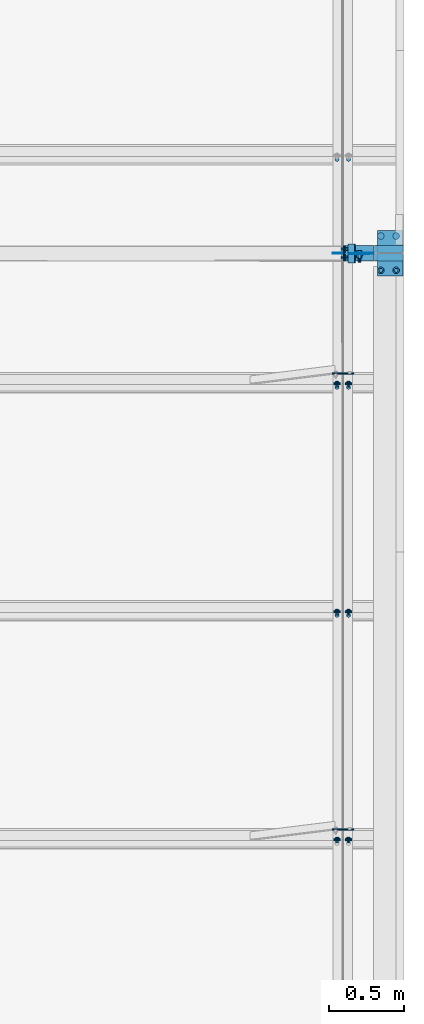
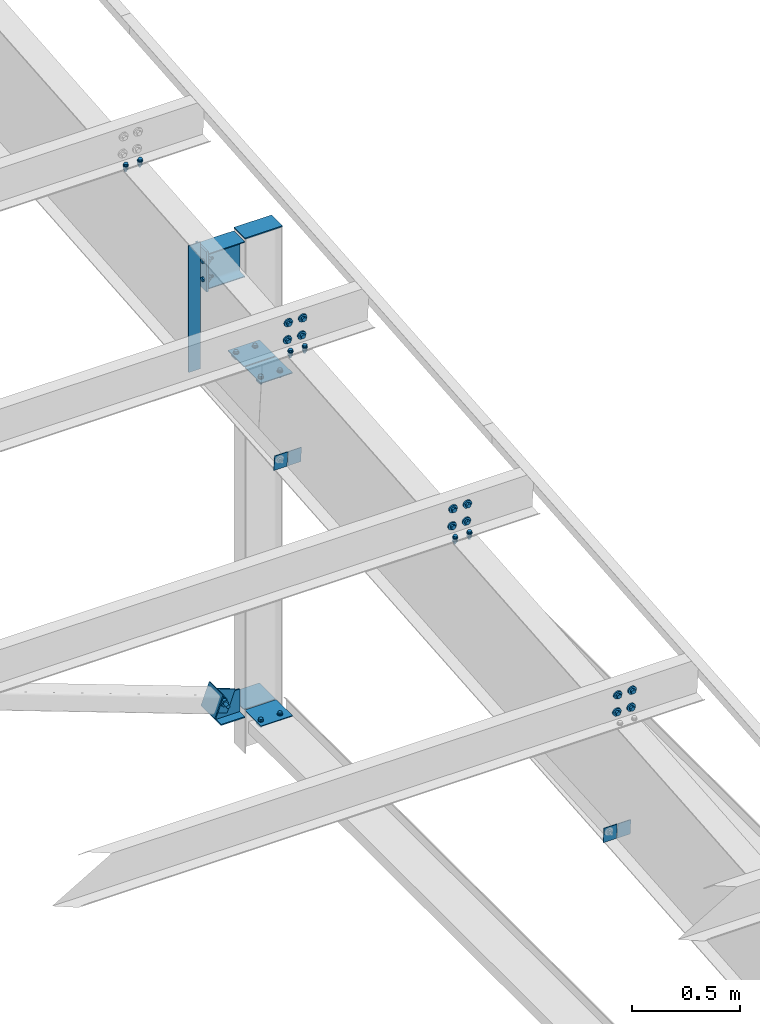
# One storey, part 108 of 185: 16 discrete accessories, 14 mechanical fasteners, 8 elements without a shape of their own.
"""IFC2X3 building model written with IfcOpenShell, lengths in millimetres."""

from ifc_helpers import new_model, si_unit, frame, frame_2d, origin_with_axes, origin_2d_with_axis, place, context, subcontext, project, spatial, polyline, circle_curve, parameter, trimmed, segment, composite_curve, rectangle, circle, i_section, outline, extrude, source, transform, mapped, material, type_object, element, aggregate, save


model = new_model("IFC2X3")

# Units and contexts
model_context = context("Model", 3, precision=1e-05, world=origin_with_axes())
body_context = subcontext(model_context, "Body", "Model", "MODEL_VIEW")
ifc_project = project(units=[si_unit("LENGTHUNIT", "METRE", prefix="MILLI"), si_unit("AREAUNIT", "SQUARE_METRE"), si_unit("VOLUMEUNIT", "CUBIC_METRE"), si_unit("MASSUNIT", "GRAM", prefix="KILO"), si_unit("TIMEUNIT", "SECOND"), si_unit("PLANEANGLEUNIT", "RADIAN"), si_unit("SOLIDANGLEUNIT", "STERADIAN"), si_unit("THERMODYNAMICTEMPERATUREUNIT", "DEGREE_CELSIUS"), si_unit("LUMINOUSINTENSITYUNIT", "LUMEN")], contexts=[model_context])

# Site, building, storey
site_placement = place(None, origin_with_axes())
site = spatial("IfcSite", under=ifc_project, at=site_placement, Name="Undefined", CompositionType="ELEMENT")
building_placement = place(site_placement, origin_with_axes())
building = spatial("IfcBuilding", under=site, at=building_placement, Name="Undefined", CompositionType="ELEMENT")
storey_placement = place(building_placement, origin_with_axes())
storey = spatial("IfcBuildingStorey", under=building, at=storey_placement, Name="Undefined", CompositionType="ELEMENT", Elevation=0.0)

# Assembly, discrete accessories
assembly_1_placement = place(storey_placement, origin_with_axes())
assembly_1 = element("IfcElementAssembly", 1, at=assembly_1_placement, inside=storey, Name="Steel Assembly", AssemblyPlace="NOTDEFINED", PredefinedType="RIGID_FRAME")
ifc_material_1 = material(Name="STEEL/55")
discrete_accessory_type_1 = type_object("IfcDiscreteAccessoryType", Name="XP-38")
discrete_accessory_1_placement = place(assembly_1_placement, frame((44868.703125, 12011.102788, 4167.98125), z_axis=(-1.0, 0.0, 0.0), x_axis=(0.0, -1.0, 0.0)))
discrete_accessory_1 = element("IfcDiscreteAccessory", 2, at=discrete_accessory_1_placement, type_object=discrete_accessory_type_1, material=ifc_material_1, Name="XP-38", ObjectType="PL3/16\"X5 7/8\"", context=body_context, shape_type="SweptSolid", body=[
    extrude(rectangle(XDim=4.7625, YDim=168.275, at=origin_2d_with_axis()), frame((149.224999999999, 0.0, 0.0), z_axis=(-1.0, 0.0, 0.0), x_axis=(0.0, -1.0, 0.0)), (0.0, 0.0, 1.0), 149.2),
])
discrete_accessory_2_placement = place(assembly_1_placement, frame((44868.703125, 12017.297212, 4167.98125), z_axis=(-1.0, 0.0, 0.0), x_axis=(0.0, 1.0, 0.0)))
discrete_accessory_2 = element("IfcDiscreteAccessory", 3, at=discrete_accessory_2_placement, type_object=discrete_accessory_type_1, material=ifc_material_1, Name="XP-38", ObjectType="PL3/16\"X5 7/8\"", context=body_context, shape_type="SweptSolid", body=[
    extrude(rectangle(XDim=4.7625, YDim=168.275, at=origin_2d_with_axis()), frame((149.224999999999, 0.0, 0.0), z_axis=(-1.0, 0.0, 0.0), x_axis=(0.0, -1.0, 0.0)), (0.0, 0.0, 1.0), 149.2),
])
discrete_accessory_3_placement = place(assembly_1_placement, frame((44868.703125, 12011.102788, 6098.38125), z_axis=(-1.0, 0.0, 0.0), x_axis=(0.0, -1.0, 0.0)))
discrete_accessory_3 = element("IfcDiscreteAccessory", 4, at=discrete_accessory_3_placement, type_object=discrete_accessory_type_1, material=ifc_material_1, Name="XP-38", ObjectType="PL3/16\"X5 7/8\"", context=body_context, shape_type="SweptSolid", body=[
    extrude(rectangle(XDim=4.7625, YDim=168.275, at=origin_2d_with_axis()), frame((149.224999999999, 0.0, 0.0), z_axis=(-1.0, 0.0, 0.0), x_axis=(0.0, -1.0, 0.0)), (0.0, 0.0, 1.0), 149.2),
])
discrete_accessory_4_placement = place(assembly_1_placement, frame((44868.703125, 12017.297212, 6098.38125), z_axis=(-1.0, 0.0, 0.0), x_axis=(0.0, 1.0, 0.0)))
discrete_accessory_4 = element("IfcDiscreteAccessory", 5, at=discrete_accessory_4_placement, type_object=discrete_accessory_type_1, material=ifc_material_1, Name="XP-38", ObjectType="PL3/16\"X5 7/8\"", context=body_context, shape_type="SweptSolid", body=[
    extrude(rectangle(XDim=4.7625, YDim=168.275, at=origin_2d_with_axis()), frame((149.224999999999, 0.0, 0.0), z_axis=(-1.0, 0.0, 0.0), x_axis=(0.0, -1.0, 0.0)), (0.0, 0.0, 1.0), 149.2),
])

# Assembly, discrete accessory
assembly_2_placement = place(storey_placement, origin_with_axes())
assembly_2 = element("IfcElementAssembly", 6, at=assembly_2_placement, inside=storey, Name="Steel Assembly", AssemblyPlace="NOTDEFINED", PredefinedType="RIGID_FRAME")
discrete_accessory_type_2 = type_object("IfcDiscreteAccessoryType", Name="Stiff")
discrete_accessory_5_placement = place(assembly_2_placement, frame((44517.546538, 12013.6952801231, 6886.40888705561), z_axis=(-1.0, 0.0, 0.0), x_axis=(0.0, 0.0, -1.0)))
discrete_accessory_5 = element("IfcDiscreteAccessory", 7, at=discrete_accessory_5_placement, type_object=discrete_accessory_type_2, material=ifc_material_1, Name="Stiff", ObjectType="FL1/4\"X2 1/2\"", context=body_context, shape_type="SweptSolid", body=[
    extrude(rectangle(XDim=6.35, YDim=63.5, at=origin_2d_with_axis()), frame((712.793737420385, 0.0, 0.0), z_axis=(-1.0, 0.0, 0.0), x_axis=(0.0, -1.0, 0.0)), (0.0, 0.0, 1.0), 712.8),
])

# Discrete accessory
discrete_accessory_6_placement = place(assembly_1_placement, frame((44694.475, 12065.0, 4167.98125), z_axis=(-1.0, 0.0, 0.0), x_axis=(0.0, -1.0, 0.0)))
discrete_accessory_6 = element("IfcDiscreteAccessory", 8, at=discrete_accessory_6_placement, type_object=discrete_accessory_type_2, material=ifc_material_1, Name="Stiff", ObjectType="FL1/4\"X4\"", context=body_context, shape_type="SweptSolid", body=[
    extrude(rectangle(XDim=6.35, YDim=127.0, at=origin_2d_with_axis()), frame((101.599998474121, 0.0, 0.0), z_axis=(-1.0, 0.0, 0.0), x_axis=(0.0, -1.0, 0.0)), (0.0, 0.0, 1.0), 101.6),
])

# Assembly, mechanical fasteners
assembly_3_placement = place(storey_placement, origin_with_axes())
assembly_3 = element("IfcElementAssembly", 9, at=assembly_3_placement, inside=storey, Name="Steel Assembly", AssemblyPlace="NOTDEFINED", PredefinedType="RIGID_FRAME")
ifc_material_2 = material(Name="Undefined")
discrete_accessory_type_3 = type_object("IfcDiscreteAccessoryType", Name="Bolt assembly")
shared_shape_1 = source(origin_with_axes(), body_context, "Body", "SweptSolid", [
    extrude(circle(Radius=7.14374971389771, at=origin_2d_with_axis()), frame((0.0, -1.59000001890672, 0.0), z_axis=(0.0, 1.0, 0.0), x_axis=(1.0, 0.0, 0.0)), (0.0, 0.0, 1.0), 3.3),
    extrude(circle(Radius=13.4937496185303, at=origin_2d_with_axis()), frame((0.0, -5.5587500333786, 0.0), z_axis=(0.0, 1.0, 0.0), x_axis=(1.0, 0.0, 0.0)), (0.0, 0.0, 1.0), 4.0),
    extrude(circle(Radius=22.2250003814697, at=origin_2d_with_axis()), frame((0.0, 1.5900000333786, 0.0), z_axis=(0.0, 1.0, 0.0), x_axis=(1.0, 0.0, 0.0)), (0.0, 0.0, 1.0), 7.9),
    extrude(outline(polyline([(12.8316099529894, 0.0), (6.4158049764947, 11.1125001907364), (-6.4158049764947, 11.1125001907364), (-12.8316099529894, 0.0), (-6.4158049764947, -11.1125001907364), (6.4158049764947, -11.1125001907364), (12.8316099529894, 0.0)])), frame((0.0, 9.5275000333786, 0.0), z_axis=(0.0, 1.0, 0.0), x_axis=(1.0, 0.0, 0.0)), (0.0, 0.0, 1.0), 12.3),
])
mechanical_fastener_1_placement = place(assembly_3_placement, frame((44513.5, 8108.79330990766, 6720.75669348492), z_axis=(-1.0, 0.0, 0.0), x_axis=(0.0, 0.0830454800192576, -0.996545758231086)))
mechanical_fastener_1 = element("IfcMechanicalFastener", 10, at=mechanical_fastener_1_placement, type_object=discrete_accessory_type_3, material=ifc_material_2, Name="Bolt assembly", NominalDiameter=12.6999998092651, NominalLength=38.0999984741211, context=body_context, shape_type="MappedRepresentation", body=[
    mapped(shared_shape_1, transform((0.0, 0.0, 0.0))),
    mapped(shared_shape_1, transform((101.599998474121, 0.0, 0.0))),
])
mechanical_fastener_2_placement = place(assembly_3_placement, frame((44589.7, 8108.79330990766, 6720.75669348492), z_axis=(-1.0, 0.0, 0.0), x_axis=(0.0, 0.0830454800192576, -0.996545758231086)))
mechanical_fastener_2 = element("IfcMechanicalFastener", 11, at=mechanical_fastener_2_placement, type_object=discrete_accessory_type_3, material=ifc_material_2, Name="Bolt assembly", NominalDiameter=12.6999998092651, NominalLength=38.0999984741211, context=body_context, shape_type="MappedRepresentation", body=[
    mapped(shared_shape_1, transform((0.0, 0.0, 0.0))),
    mapped(shared_shape_1, transform((101.599998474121, 0.0, 0.0))),
])
aggregate(assembly_3, [mechanical_fastener_1, mechanical_fastener_2])

assembly_4_placement = place(storey_placement, origin_with_axes())
assembly_4 = element("IfcElementAssembly", 12, at=assembly_4_placement, inside=storey, Name="Steel Assembly", AssemblyPlace="NOTDEFINED", PredefinedType="RIGID_FRAME")
mechanical_fastener_3_placement = place(assembly_4_placement, frame((44513.5, 9627.52904545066, 6847.31800503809), z_axis=(-1.0, 0.0, 0.0), x_axis=(0.0, 0.0830454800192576, -0.996545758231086)))
mechanical_fastener_3 = element("IfcMechanicalFastener", 13, at=mechanical_fastener_3_placement, type_object=discrete_accessory_type_3, material=ifc_material_2, Name="Bolt assembly", NominalDiameter=12.6999998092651, NominalLength=38.0999984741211, context=body_context, shape_type="MappedRepresentation", body=[
    mapped(shared_shape_1, transform((0.0, 0.0, 0.0))),
    mapped(shared_shape_1, transform((101.599998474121, 0.0, 0.0))),
])
mechanical_fastener_4_placement = place(assembly_4_placement, frame((44589.7, 9627.52904545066, 6847.31800503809), z_axis=(-1.0, 0.0, 0.0), x_axis=(0.0, 0.0830454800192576, -0.996545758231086)))
mechanical_fastener_4 = element("IfcMechanicalFastener", 14, at=mechanical_fastener_4_placement, type_object=discrete_accessory_type_3, material=ifc_material_2, Name="Bolt assembly", NominalDiameter=12.6999998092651, NominalLength=38.0999984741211, context=body_context, shape_type="MappedRepresentation", body=[
    mapped(shared_shape_1, transform((0.0, 0.0, 0.0))),
    mapped(shared_shape_1, transform((101.599998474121, 0.0, 0.0))),
])

assembly_5_placement = place(storey_placement, origin_with_axes())
assembly_5 = element("IfcElementAssembly", 15, at=assembly_5_placement, inside=storey, Name="Steel Assembly", AssemblyPlace="NOTDEFINED", PredefinedType="RIGID_FRAME")
mechanical_fastener_5_placement = place(assembly_5_placement, frame((44513.5, 11146.2647809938, 6973.87931659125), z_axis=(-1.0, 0.0, 0.0), x_axis=(0.0, 0.0830454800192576, -0.996545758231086)))
mechanical_fastener_5 = element("IfcMechanicalFastener", 16, at=mechanical_fastener_5_placement, type_object=discrete_accessory_type_3, material=ifc_material_2, Name="Bolt assembly", NominalDiameter=12.6999998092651, NominalLength=38.0999984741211, context=body_context, shape_type="MappedRepresentation", body=[
    mapped(shared_shape_1, transform((0.0, 0.0, 0.0))),
    mapped(shared_shape_1, transform((101.599998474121, 0.0, 0.0))),
])
mechanical_fastener_6_placement = place(assembly_5_placement, frame((44589.7, 11146.2647809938, 6973.87931659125), z_axis=(-1.0, 0.0, 0.0), x_axis=(0.0, 0.0830454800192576, -0.996545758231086)))
mechanical_fastener_6 = element("IfcMechanicalFastener", 17, at=mechanical_fastener_6_placement, type_object=discrete_accessory_type_3, material=ifc_material_2, Name="Bolt assembly", NominalDiameter=12.6999998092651, NominalLength=38.0999984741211, context=body_context, shape_type="MappedRepresentation", body=[
    mapped(shared_shape_1, transform((0.0, 0.0, 0.0))),
    mapped(shared_shape_1, transform((101.599998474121, 0.0, 0.0))),
])

# Assembly, discrete accessories
assembly_6_placement = place(storey_placement, origin_with_axes())
assembly_6 = element("IfcElementAssembly", 18, at=assembly_6_placement, inside=storey, Name="Steel Assembly", AssemblyPlace="NOTDEFINED", PredefinedType="RIGID_FRAME")
discrete_accessory_type_4 = type_object("IfcDiscreteAccessoryType", Name="PLATE")
discrete_accessory_7_placement = place(assembly_6_placement, frame((44684.6860423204, 12011.0162760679, 4325.98781209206), z_axis=(0.938292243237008, -0.000372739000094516, -0.345843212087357), x_axis=(-0.345843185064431, 0.000137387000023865, -0.938292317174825)))
discrete_accessory_7 = element("IfcDiscreteAccessory", 19, at=discrete_accessory_7_placement, type_object=discrete_accessory_type_4, material=ifc_material_1, Name="PLATE", ObjectType="FL1/4\"X4\"", context=body_context, shape_type="SweptSolid", body=[
    extrude(rectangle(XDim=6.35, YDim=101.6, at=origin_2d_with_axis()), frame((127.000000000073, 3.63797855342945e-12, 7.27595761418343e-12), z_axis=(-1.0, 0.0, 0.0), x_axis=(0.0, -1.0, 0.0)), (0.0, 0.0, 1.0), 127.0),
])
discrete_accessory_8_placement = place(assembly_6_placement, frame((44590.119633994, 12011.0538427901, 4225.49157519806), z_axis=(-0.000397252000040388, -0.999999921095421, 0.0), x_axis=(0.345843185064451, -0.000137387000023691, 0.938292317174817)))
discrete_accessory_8 = element("IfcDiscreteAccessory", 20, at=discrete_accessory_8_placement, type_object=discrete_accessory_type_4, material=ifc_material_1, Name="PLATE", ObjectType="FL1/4\"X5\"", context=body_context, shape_type="SweptSolid", body=[
    extrude(rectangle(XDim=6.35, YDim=127.0, at=origin_2d_with_axis()), frame((127.000000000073, 3.63797855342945e-12, 7.27595761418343e-12), z_axis=(-1.0, 0.0, 0.0), x_axis=(0.0, -1.0, 0.0)), (0.0, 0.0, 1.0), 127.0),
])

# Discrete accessory
discrete_accessory_9_placement = place(assembly_1_placement, frame((44958.0, 12013.7558371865, 6860.60881963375), z_axis=(0.0, -1.0, 0.0), x_axis=(-1.0, 0.0, 0.0)))
discrete_accessory_9 = element("IfcDiscreteAccessory", 21, at=discrete_accessory_9_placement, type_object=discrete_accessory_type_4, material=ifc_material_1, Name="PLATE", ObjectType="FL1/4\"X4\"", context=body_context, shape_type="SweptSolid", body=[
    extrude(rectangle(XDim=6.35, YDim=101.6, at=origin_2d_with_axis()), frame((200.025000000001, 0.0, 0.0), z_axis=(-1.0, 0.0, 0.0), x_axis=(0.0, -1.0, 0.0)), (0.0, 0.0, 1.0), 200.0),
])

discrete_accessory_10_placement = place(assembly_1_placement, frame((44757.975, 12014.2, 4234.65625), z_axis=(0.0, 0.0, 1.0), x_axis=(-1.0, 0.0, 0.0)))
discrete_accessory_10 = element("IfcDiscreteAccessory", 22, at=discrete_accessory_10_placement, type_object=discrete_accessory_type_4, material=ifc_material_1, Name="PLATE", ObjectType="FL1/4\"X5\"", context=body_context, shape_type="SweptSolid", body=[
    extrude(rectangle(XDim=6.35, YDim=127.0, at=origin_2d_with_axis()), frame((127.000000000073, 3.63797855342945e-12, 7.27595761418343e-12), z_axis=(-1.0, 0.0, 0.0), x_axis=(0.0, -1.0, 0.0)), (0.0, 0.0, 1.0), 127.0),
])

discrete_accessory_11_placement = place(assembly_1_placement, frame((44558.148438, 12013.7558371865, 6857.43381963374), z_axis=(0.0, 1.0, 0.0), x_axis=(0.0, 0.0, -1.0)))
discrete_accessory_11 = element("IfcDiscreteAccessory", 23, at=discrete_accessory_11_placement, type_object=discrete_accessory_type_4, material=ifc_material_1, Name="PLATE", ObjectType="FL3/8\"X4\"", context=body_context, shape_type="SweptSolid", body=[
    extrude(rectangle(XDim=9.525, YDim=101.6, at=origin_2d_with_axis()), frame((225.424999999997, 0.0, 0.0), z_axis=(-1.0, 0.0, 0.0), x_axis=(0.0, -1.0, 0.0)), (0.0, 0.0, 1.0), 225.4),
])

discrete_accessory_type_5 = type_object("IfcDiscreteAccessoryType", Name="FLANGE BRACE FLIP")
discrete_accessory_12_placement = place(assembly_2_placement, frame((44549.89185, 11213.2485592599, 6149.50693376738), z_axis=(0.0, 0.0830454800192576, -0.996545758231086), x_axis=(-1.0, 0.0, 0.0)))
discrete_accessory_12 = element("IfcDiscreteAccessory", 24, at=discrete_accessory_12_placement, type_object=discrete_accessory_type_5, material=ifc_material_1, Name="FLANGE BRACE FLIP", ObjectType="PL1/8\"X2 3/4\"", context=body_context, shape_type="SweptSolid", body=[
    extrude(rectangle(XDim=3.416, YDim=85.725, at=origin_2d_with_axis()), frame((69.8499999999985, 0.0, 0.0), z_axis=(-1.0, 0.0, 0.0), x_axis=(0.0, -1.0, 0.0)), (0.0, 0.0, 1.0), 69.8),
])

discrete_accessory_13_placement = place(assembly_2_placement, frame((44553.30815, 11213.2485592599, 6149.50693376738), z_axis=(0.0, 0.0830454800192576, -0.996545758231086), x_axis=(1.0, 0.0, 0.0)))
discrete_accessory_13 = element("IfcDiscreteAccessory", 25, at=discrete_accessory_13_placement, type_object=discrete_accessory_type_5, material=ifc_material_1, Name="FLANGE BRACE FLIP", ObjectType="PL1/8\"X2 3/4\"", context=body_context, shape_type="SweptSolid", body=[
    extrude(rectangle(XDim=3.416, YDim=85.725, at=origin_2d_with_axis()), frame((69.8499999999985, 0.0, 0.0), z_axis=(-1.0, 0.0, 0.0), x_axis=(0.0, -1.0, 0.0)), (0.0, 0.0, 1.0), 69.9),
])

discrete_accessory_14_placement = place(assembly_2_placement, frame((44549.89185, 8175.77708813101, 5896.3843111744), z_axis=(0.0, 0.0830454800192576, -0.996545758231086), x_axis=(-1.0, 0.0, 0.0)))
discrete_accessory_14 = element("IfcDiscreteAccessory", 26, at=discrete_accessory_14_placement, type_object=discrete_accessory_type_5, material=ifc_material_1, Name="FLANGE BRACE FLIP", ObjectType="PL1/8\"X2 3/4\"", context=body_context, shape_type="SweptSolid", body=[
    extrude(rectangle(XDim=3.416, YDim=85.725, at=origin_2d_with_axis()), frame((69.8499999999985, 0.0, 0.0), z_axis=(-1.0, 0.0, 0.0), x_axis=(0.0, -1.0, 0.0)), (0.0, 0.0, 1.0), 69.8),
])

discrete_accessory_15_placement = place(assembly_2_placement, frame((44553.30815, 8175.77708813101, 5896.3843111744), z_axis=(0.0, 0.0830454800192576, -0.996545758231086), x_axis=(1.0, 0.0, 0.0)))
discrete_accessory_15 = element("IfcDiscreteAccessory", 27, at=discrete_accessory_15_placement, type_object=discrete_accessory_type_5, material=ifc_material_1, Name="FLANGE BRACE FLIP", ObjectType="PL1/8\"X2 3/4\"", context=body_context, shape_type="SweptSolid", body=[
    extrude(rectangle(XDim=3.416, YDim=85.725, at=origin_2d_with_axis()), frame((69.8499999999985, 0.0, 0.0), z_axis=(-1.0, 0.0, 0.0), x_axis=(0.0, -1.0, 0.0)), (0.0, 0.0, 1.0), 69.8),
])

aggregate(assembly_2, [discrete_accessory_5, discrete_accessory_12, discrete_accessory_13, discrete_accessory_14, discrete_accessory_15])

# Mechanical fastener
shared_shape_2 = source(origin_with_axes(), body_context, "Body", "SweptSolid", [
    extrude(circle(Radius=10.3187494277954, at=origin_2d_with_axis()), frame((0.0, -6.24999999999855, 0.0), z_axis=(0.0, 1.0, 0.0), x_axis=(1.0, 0.0, 0.0)), (0.0, 0.0, 1.0), 6.3),
    extrude(circle(Radius=10.3187494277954, at=origin_2d_with_axis()), frame((0.0, -3.27500039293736, 0.0), z_axis=(0.0, 1.0, 0.0), x_axis=(1.0, 0.0, 0.0)), (0.0, 0.0, 1.0), 6.5),
    extrude(outline(polyline([(18.3308710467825, 0.0), (9.16543552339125, 15.8750000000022), (-9.16543552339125, 15.8750000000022), (-18.3308710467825, 0.0), (-9.16543552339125, -15.8750000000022), (9.16543552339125, -15.8750000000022), (18.3308710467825, 0.0)])), frame((0.0, -22.2249999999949, 0.0), z_axis=(0.0, 1.0, 0.0), x_axis=(1.0, 0.0, 0.0)), (0.0, 0.0, 1.0), 11.9),
    extrude(circle(Radius=9.52499961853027, at=origin_2d_with_axis()), frame((0.0, -10.3187499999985, 0.0), z_axis=(0.0, 1.0, 0.0), x_axis=(1.0, 0.0, 0.0)), (0.0, 0.0, 1.0), 69.8),
    extrude(circle(Radius=18.2562503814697, at=origin_2d_with_axis()), frame((0.0, -10.3187499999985, 0.0), z_axis=(0.0, 1.0, 0.0), x_axis=(1.0, 0.0, 0.0)), (0.0, 0.0, 1.0), 4.0),
    extrude(circle(Radius=22.2250003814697, at=origin_2d_with_axis()), frame((0.0, 3.17500610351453, 0.0), z_axis=(0.0, 1.0, 0.0), x_axis=(1.0, 0.0, 0.0)), (0.0, 0.0, 1.0), 7.9),
    extrude(outline(polyline([(18.3308710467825, 0.0), (9.16543552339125, 15.8750000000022), (-9.16543552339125, 15.8750000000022), (-18.3308710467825, 0.0), (-9.16543552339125, -15.8750000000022), (9.16543552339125, -15.8750000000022), (18.3308710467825, 0.0)])), frame((0.0, 11.1125061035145, 0.0), z_axis=(0.0, 1.0, 0.0), x_axis=(1.0, 0.0, 0.0)), (0.0, 0.0, 1.0), 19.0),
])
mechanical_fastener_7_placement = place(assembly_6_placement, frame((44662.7249999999, 12011.025, 4266.40624999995), z_axis=(0.0, 0.0, -1.0), x_axis=(1.0, 0.0, 0.0)))
mechanical_fastener_7 = element("IfcMechanicalFastener", 28, at=mechanical_fastener_7_placement, type_object=discrete_accessory_type_3, material=ifc_material_2, Name="Bolt assembly", NominalDiameter=19.0499992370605, NominalLength=69.8499984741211, context=body_context, shape_type="MappedRepresentation", body=[
    mapped(shared_shape_2, transform((0.0, 0.0, 0.0))),
])

aggregate(assembly_6, [discrete_accessory_7, discrete_accessory_8, mechanical_fastener_7])

shared_shape_3 = source(origin_with_axes(), body_context, "Body", "SweptSolid", [
    extrude(circle(Radius=7.14374971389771, at=origin_2d_with_axis()), frame((0.0, -1.69000003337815, 0.0), z_axis=(0.0, 1.0, 0.0), x_axis=(1.0, 0.0, 0.0)), (0.0, 0.0, 1.0), 3.3),
    extrude(outline(composite_curve([segment(polyline([(-5.953125, 7.14374971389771), (5.953125, 7.14374971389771)]), True, "CONTINUOUS"), segment(trimmed(circle_curve(frame_2d((5.953125, 0.0), x_axis=(0.0, 1.0)), 7.1), [parameter(0.0)], [parameter(3.14159265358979)], False, "PARAMETER"), True, "CONTINUOUS"), segment(polyline([(5.953125, -7.14374971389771), (-5.953125, -7.14374971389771)]), True, "CONTINUOUS"), segment(trimmed(circle_curve(frame_2d((-5.953125, 0.0), x_axis=(0.0, -1.0)), 7.1), [parameter(0.0)], [parameter(3.14159265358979)], False, "PARAMETER"), True, "DISCONTINUOUS")], self_intersect=False)), frame((0.0, -4.66250000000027, 0.0), z_axis=(0.0, 1.0, 0.0), x_axis=(1.0, 0.0, 0.0)), (0.0, 0.0, 1.0), 4.8),
    extrude(outline(polyline([(10.9985221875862, 0.0), (5.4992610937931, 9.52499961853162), (-5.4992610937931, 9.52499961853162), (-10.9985221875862, 0.0), (-5.4992610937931, -9.52499961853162), (5.4992610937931, -9.52499961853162), (10.9985221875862, 0.0)])), frame((0.0, -18.2562496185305, 0.0), z_axis=(0.0, 1.0, 0.0), x_axis=(1.0, 0.0, 0.0)), (0.0, 0.0, 1.0), 9.5),
    extrude(circle(Radius=6.34999990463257, at=origin_2d_with_axis()), frame((0.0, -8.73125000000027, 0.0), z_axis=(0.0, 1.0, 0.0), x_axis=(1.0, 0.0, 0.0)), (0.0, 0.0, 1.0), 38.1),
    extrude(circle(Radius=13.4937496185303, at=origin_2d_with_axis()), frame((0.0, -8.73125000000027, 0.0), z_axis=(0.0, 1.0, 0.0), x_axis=(1.0, 0.0, 0.0)), (0.0, 0.0, 1.0), 4.0),
    extrude(circle(Radius=22.2250003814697, at=origin_2d_with_axis()), frame((0.0, 1.5900000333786, 0.0), z_axis=(0.0, 1.0, 0.0), x_axis=(1.0, 0.0, 0.0)), (0.0, 0.0, 1.0), 7.9),
    extrude(outline(polyline([(12.8316099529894, 0.0), (6.4158049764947, 11.1125001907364), (-6.4158049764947, 11.1125001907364), (-12.8316099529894, 0.0), (-6.4158049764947, -11.1125001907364), (6.4158049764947, -11.1125001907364), (12.8316099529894, 0.0)])), frame((0.0, 9.5275000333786, 0.0), z_axis=(0.0, 1.0, 0.0), x_axis=(1.0, 0.0, 0.0)), (0.0, 0.0, 1.0), 12.3),
])
mechanical_fastener_8_placement = place(assembly_1_placement, frame((44907.2, 11899.9, 4165.6), z_axis=(0.0, -1.0, 0.0), x_axis=(-1.0, 0.0, 0.0)))
mechanical_fastener_8 = element("IfcMechanicalFastener", 29, at=mechanical_fastener_8_placement, type_object=discrete_accessory_type_3, material=ifc_material_2, Name="Bolt assembly", NominalDiameter=12.6999998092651, NominalLength=38.0999984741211, context=body_context, shape_type="MappedRepresentation", body=[
    mapped(shared_shape_3, transform((0.0, 0.0, 0.0))),
    mapped(shared_shape_3, transform((101.599998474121, 0.0, 0.0))),
])

# Assembly, mechanical fastener
assembly_7_placement = place(storey_placement, origin_with_axes())
assembly_7 = element("IfcElementAssembly", 30, at=assembly_7_placement, inside=storey, Name="Steel Assembly", AssemblyPlace="NOTDEFINED", PredefinedType="RIGID_FRAME")
shared_shape_4 = source(origin_with_axes(), body_context, "Body", "SweptSolid", [
    extrude(outline(composite_curve([segment(polyline([(-5.953125, 7.14374971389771), (5.953125, 7.14374971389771)]), True, "CONTINUOUS"), segment(trimmed(circle_curve(frame_2d((5.953125, 0.0), x_axis=(0.0, 1.0)), 7.1), [parameter(0.0)], [parameter(3.14159265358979)], False, "PARAMETER"), True, "CONTINUOUS"), segment(polyline([(5.953125, -7.14374971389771), (-5.953125, -7.14374971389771)]), True, "CONTINUOUS"), segment(trimmed(circle_curve(frame_2d((-5.953125, 0.0), x_axis=(0.0, -1.0)), 7.1), [parameter(0.0)], [parameter(3.14159265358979)], False, "PARAMETER"), True, "DISCONTINUOUS")], self_intersect=False)), frame((0.0, -4.66250000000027, 0.0), z_axis=(0.0, 1.0, 0.0), x_axis=(1.0, 0.0, 0.0)), (0.0, 0.0, 1.0), 4.8),
    extrude(circle(Radius=7.14374971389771, at=origin_2d_with_axis()), frame((0.0, -1.69000003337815, 0.0), z_axis=(0.0, 1.0, 0.0), x_axis=(1.0, 0.0, 0.0)), (0.0, 0.0, 1.0), 3.3),
    extrude(outline(polyline([(10.9985221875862, 0.0), (5.4992610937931, 9.52499961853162), (-5.4992610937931, 9.52499961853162), (-10.9985221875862, 0.0), (-5.4992610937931, -9.52499961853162), (5.4992610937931, -9.52499961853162), (10.9985221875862, 0.0)])), frame((0.0, -18.2562496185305, 0.0), z_axis=(0.0, 1.0, 0.0), x_axis=(1.0, 0.0, 0.0)), (0.0, 0.0, 1.0), 9.5),
    extrude(circle(Radius=6.34999990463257, at=origin_2d_with_axis()), frame((0.0, -8.73125000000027, 0.0), z_axis=(0.0, 1.0, 0.0), x_axis=(1.0, 0.0, 0.0)), (0.0, 0.0, 1.0), 38.1),
    extrude(circle(Radius=13.4937496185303, at=origin_2d_with_axis()), frame((0.0, -8.73125000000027, 0.0), z_axis=(0.0, 1.0, 0.0), x_axis=(1.0, 0.0, 0.0)), (0.0, 0.0, 1.0), 4.0),
    extrude(circle(Radius=22.2250003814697, at=origin_2d_with_axis()), frame((0.0, 1.5900000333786, 0.0), z_axis=(0.0, 1.0, 0.0), x_axis=(1.0, 0.0, 0.0)), (0.0, 0.0, 1.0), 7.9),
    extrude(outline(polyline([(12.8316099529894, 0.0), (6.4158049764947, 11.1125001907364), (-6.4158049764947, 11.1125001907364), (-12.8316099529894, 0.0), (-6.4158049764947, -11.1125001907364), (6.4158049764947, -11.1125001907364), (12.8316099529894, 0.0)])), frame((0.0, 9.5275000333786, 0.0), z_axis=(0.0, 1.0, 0.0), x_axis=(1.0, 0.0, 0.0)), (0.0, 0.0, 1.0), 12.3),
])
mechanical_fastener_9_placement = place(assembly_7_placement, frame((44907.2000007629, 11899.9, 6096.0), z_axis=(0.0, -1.0, 0.0), x_axis=(-1.0, 0.0, 0.0)))
mechanical_fastener_9 = element("IfcMechanicalFastener", 31, at=mechanical_fastener_9_placement, type_object=discrete_accessory_type_3, material=ifc_material_2, Name="Bolt assembly", NominalDiameter=12.6999998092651, NominalLength=38.0999984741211, context=body_context, shape_type="MappedRepresentation", body=[
    mapped(shared_shape_4, transform((0.0, 0.0, 0.0))),
    mapped(shared_shape_4, transform((101.599998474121, 0.0, 0.0))),
])
aggregate(assembly_7, [mechanical_fastener_9])

# Mechanical fastener
shared_shape_5 = source(origin_with_axes(), body_context, "Body", "SweptSolid", [
    extrude(outline(composite_curve([segment(polyline([(-5.953125, 7.14374971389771), (5.953125, 7.14374971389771)]), True, "CONTINUOUS"), segment(trimmed(circle_curve(frame_2d((5.953125, 0.0), x_axis=(0.0, 1.0)), 7.1), [parameter(0.0)], [parameter(3.14159265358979)], False, "PARAMETER"), True, "CONTINUOUS"), segment(polyline([(5.953125, -7.14374971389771), (-5.953125, -7.14374971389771)]), True, "CONTINUOUS"), segment(trimmed(circle_curve(frame_2d((-5.953125, 0.0), x_axis=(0.0, -1.0)), 7.1), [parameter(0.0)], [parameter(3.14159265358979)], False, "PARAMETER"), True, "DISCONTINUOUS")], self_intersect=False)), frame((0.0, -4.76250000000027, 0.0), z_axis=(0.0, 1.0, 0.0), x_axis=(1.0, 0.0, 0.0)), (0.0, 0.0, 1.0), 4.9),
    extrude(outline(polyline([(10.9985221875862, 0.0), (5.4992610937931, 9.52499961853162), (-5.4992610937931, 9.52499961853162), (-10.9985221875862, 0.0), (-5.4992610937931, -9.52499961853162), (5.4992610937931, -9.52499961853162), (10.9985221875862, 0.0)])), frame((0.0, -18.2562496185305, 0.0), z_axis=(0.0, 1.0, 0.0), x_axis=(1.0, 0.0, 0.0)), (0.0, 0.0, 1.0), 9.5),
    extrude(circle(Radius=6.34999990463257, at=origin_2d_with_axis()), frame((0.0, -8.73125000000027, 0.0), z_axis=(0.0, 1.0, 0.0), x_axis=(1.0, 0.0, 0.0)), (0.0, 0.0, 1.0), 38.1),
    extrude(circle(Radius=13.4937496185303, at=origin_2d_with_axis()), frame((0.0, -8.73125000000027, 0.0), z_axis=(0.0, 1.0, 0.0), x_axis=(1.0, 0.0, 0.0)), (0.0, 0.0, 1.0), 4.0),
    extrude(circle(Radius=22.2250003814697, at=origin_2d_with_axis()), frame((0.0, 0.0, 0.0), z_axis=(0.0, 1.0, 0.0), x_axis=(1.0, 0.0, 0.0)), (0.0, 0.0, 1.0), 7.9),
    extrude(outline(polyline([(12.8316099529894, 0.0), (6.4158049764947, 11.1125001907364), (-6.4158049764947, 11.1125001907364), (-12.8316099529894, 0.0), (-6.4158049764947, -11.1125001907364), (6.4158049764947, -11.1125001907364), (12.8316099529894, 0.0)])), frame((0.0, 7.93750000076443, 0.0), z_axis=(0.0, 1.0, 0.0), x_axis=(1.0, 0.0, 0.0)), (0.0, 0.0, 1.0), 12.3),
])
mechanical_fastener_10_placement = place(assembly_1_placement, frame((44907.2000007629, 12128.5, 6096.0), z_axis=(0.0, -1.0, 0.0), x_axis=(-1.0, 0.0, 0.0)))
mechanical_fastener_10 = element("IfcMechanicalFastener", 32, at=mechanical_fastener_10_placement, type_object=discrete_accessory_type_3, material=ifc_material_2, Name="Bolt assembly", NominalDiameter=12.6999998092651, NominalLength=38.0999984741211, context=body_context, shape_type="MappedRepresentation", body=[
    mapped(shared_shape_5, transform((0.0, 0.0, 0.0))),
    mapped(shared_shape_5, transform((101.599998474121, 0.0, 0.0))),
])

shared_shape_6 = source(origin_with_axes(), body_context, "Body", "SweptSolid", [
    extrude(circle(Radius=7.14374971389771, at=origin_2d_with_axis()), frame((0.0, -0.1, 0.0), z_axis=(0.0, 1.0, 0.0), x_axis=(1.0, 0.0, 0.0)), (0.0, 0.0, 1.0), 6.5),
    extrude(circle(Radius=7.14374971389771, at=origin_2d_with_axis()), frame((0.0, -3.08000006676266, 0.0), z_axis=(0.0, 1.0, 0.0), x_axis=(1.0, 0.0, 0.0)), (0.0, 0.0, 1.0), 3.2),
    extrude(outline(polyline([(10.9985221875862, 0.0), (5.4992610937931, 9.52499961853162), (-5.4992610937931, 9.52499961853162), (-10.9985221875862, 0.0), (-5.4992610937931, -9.52499961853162), (5.4992610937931, -9.52499961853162), (10.9985221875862, 0.0)])), frame((0.0, -16.6737496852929, 0.0), z_axis=(0.0, 1.0, 0.0), x_axis=(1.0, 0.0, 0.0)), (0.0, 0.0, 1.0), 9.5),
    extrude(circle(Radius=6.34999990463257, at=origin_2d_with_axis()), frame((0.0, -7.14875006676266, 0.0), z_axis=(0.0, 1.0, 0.0), x_axis=(1.0, 0.0, 0.0)), (0.0, 0.0, 1.0), 38.1),
    extrude(circle(Radius=13.4937496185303, at=origin_2d_with_axis()), frame((0.0, -7.14875006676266, 0.0), z_axis=(0.0, 1.0, 0.0), x_axis=(1.0, 0.0, 0.0)), (0.0, 0.0, 1.0), 4.0),
    extrude(outline(polyline([(12.8316099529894, 0.0), (6.4158049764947, 11.1125001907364), (-6.4158049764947, 11.1125001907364), (-12.8316099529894, 0.0), (-6.4158049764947, -11.1125001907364), (6.4158049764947, -11.1125001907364), (12.8316099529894, 0.0)])), frame((0.0, 6.35000000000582, 0.0), z_axis=(0.0, 1.0, 0.0), x_axis=(1.0, 0.0, 0.0)), (0.0, 0.0, 1.0), 12.3),
])
mechanical_fastener_11_placement = place(assembly_4_placement, frame((44551.6, 9602.21678319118, 6692.28039869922), z_axis=(1.0, 0.0, 0.0), x_axis=(0.0, -0.996545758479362, -0.0830454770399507)))
mechanical_fastener_11 = element("IfcMechanicalFastener", 33, at=mechanical_fastener_11_placement, type_object=discrete_accessory_type_3, material=ifc_material_2, Name="Bolt assembly", NominalDiameter=12.6999998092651, NominalLength=38.0999984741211, context=body_context, shape_type="MappedRepresentation", body=[
    mapped(shared_shape_6, transform((0.0, 0.0, -38.0999984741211))),
    mapped(shared_shape_6, transform((0.0, 0.0, 38.0999984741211))),
])

aggregate(assembly_4, [mechanical_fastener_11, mechanical_fastener_3, mechanical_fastener_4])

mechanical_fastener_12_placement = place(assembly_5_placement, frame((44551.6, 11120.9525187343, 6818.84171025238), z_axis=(1.0, 0.0, 0.0), x_axis=(0.0, -0.996545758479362, -0.0830454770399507)))
mechanical_fastener_12 = element("IfcMechanicalFastener", 34, at=mechanical_fastener_12_placement, type_object=discrete_accessory_type_3, material=ifc_material_2, Name="Bolt assembly", NominalDiameter=12.6999998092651, NominalLength=38.0999984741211, context=body_context, shape_type="MappedRepresentation", body=[
    mapped(shared_shape_6, transform((0.0, 0.0, -38.0999984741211))),
    mapped(shared_shape_6, transform((0.0, 0.0, 38.0999984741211))),
])

aggregate(assembly_5, [mechanical_fastener_12, mechanical_fastener_5, mechanical_fastener_6])

# Assembly, mechanical fastener
assembly_8_placement = place(storey_placement, origin_with_axes())
assembly_8 = element("IfcElementAssembly", 35, at=assembly_8_placement, inside=storey, Name="Steel Assembly", AssemblyPlace="NOTDEFINED", PredefinedType="RIGID_FRAME")
mechanical_fastener_13_placement = place(assembly_8_placement, frame((44551.6, 12639.6882542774, 6945.40302180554), z_axis=(1.0, 0.0, 0.0), x_axis=(0.0, -0.996545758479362, -0.0830454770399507)))
mechanical_fastener_13 = element("IfcMechanicalFastener", 36, at=mechanical_fastener_13_placement, type_object=discrete_accessory_type_3, material=ifc_material_2, Name="Bolt assembly", NominalDiameter=12.6999998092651, NominalLength=38.0999984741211, context=body_context, shape_type="MappedRepresentation", body=[
    mapped(shared_shape_6, transform((0.0, 0.0, -38.0999984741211))),
    mapped(shared_shape_6, transform((0.0, 0.0, 38.0999984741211))),
])
aggregate(assembly_8, [mechanical_fastener_13])

# Mechanical fastener
shared_shape_7 = source(origin_with_axes(), body_context, "Body", "SweptSolid", [
    extrude(circle(Radius=7.14374971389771, at=origin_2d_with_axis()), frame((0.0, -4.06693800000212, 0.0), z_axis=(0.0, 1.0, 0.0), x_axis=(1.0, 0.0, 0.0)), (0.0, 0.0, 1.0), 4.8),
    extrude(circle(Radius=7.14374971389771, at=origin_2d_with_axis()), frame((0.0, -0.1, 0.0), z_axis=(0.0, 1.0, 0.0), x_axis=(1.0, 0.0, 0.0)), (0.0, 0.0, 1.0), 9.6),
    extrude(outline(polyline([(12.8316099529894, 0.0), (6.4158049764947, 11.1125001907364), (-6.4158049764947, 11.1125001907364), (-12.8316099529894, 0.0), (-6.4158049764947, -11.1125001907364), (6.4158049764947, -11.1125001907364), (12.8316099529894, 0.0)])), frame((0.0, -12.1044380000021, 0.0), z_axis=(0.0, 1.0, 0.0), x_axis=(1.0, 0.0, 0.0)), (0.0, 0.0, 1.0), 7.9),
    extrude(circle(Radius=6.34999990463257, at=origin_2d_with_axis()), frame((0.0, -4.16693800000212, 0.0), z_axis=(0.0, 1.0, 0.0), x_axis=(1.0, 0.0, 0.0)), (0.0, 0.0, 1.0), 50.8),
    extrude(circle(Radius=22.2250003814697, at=origin_2d_with_axis()), frame((0.0, 9.52499999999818, 0.0), z_axis=(0.0, 1.0, 0.0), x_axis=(1.0, 0.0, 0.0)), (0.0, 0.0, 1.0), 7.9),
    extrude(outline(polyline([(12.8316099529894, 0.0), (6.4158049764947, 11.1125001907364), (-6.4158049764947, 11.1125001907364), (-12.8316099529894, 0.0), (-6.4158049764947, -11.1125001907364), (6.4158049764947, -11.1125001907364), (12.8316099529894, 0.0)])), frame((0.0, 17.4624999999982, 0.0), z_axis=(0.0, 1.0, 0.0), x_axis=(1.0, 0.0, 0.0)), (0.0, 0.0, 1.0), 12.3),
])
mechanical_fastener_14_placement = place(assembly_1_placement, frame((44553.385938, 12013.7558371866, 6795.52131963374), z_axis=(0.0, -1.0, 0.0), x_axis=(0.0, 0.0, -1.0)))
mechanical_fastener_14 = element("IfcMechanicalFastener", 37, at=mechanical_fastener_14_placement, type_object=discrete_accessory_type_3, material=ifc_material_2, Name="Bolt assembly", NominalDiameter=12.6999998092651, NominalLength=50.7999992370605, context=body_context, shape_type="MappedRepresentation", body=[
    mapped(shared_shape_7, transform((0.0, 0.0, -28.5750007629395))),
    mapped(shared_shape_7, transform((101.599998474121, 0.0, -28.5750007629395))),
    mapped(shared_shape_7, transform((0.0, 0.0, 28.5750007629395))),
    mapped(shared_shape_7, transform((101.599998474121, 0.0, 28.5750007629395))),
])

# Discrete accessory
discrete_accessory_type_6 = type_object("IfcDiscreteAccessoryType", Name="BEAM")
discrete_accessory_16_placement = place(assembly_1_placement, frame((44757.975, 12013.7558371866, 6744.72131963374), z_axis=(0.0, 0.0, 1.0), x_axis=(-1.0, 0.0, 0.0)))
discrete_accessory_16 = element("IfcDiscreteAccessory", 38, at=discrete_accessory_16_placement, type_object=discrete_accessory_type_6, material=ifc_material_1, Name="BEAM", ObjectType="W8X10", context=body_context, shape_type="SweptSolid", body=[
    extrude(i_section(OverallWidth=101.6, OverallDepth=200.025, WebThickness=4.7625, FlangeThickness=4.7625, FilletRadius=12.7, at=origin_2d_with_axis()), frame((195.064062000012, 0.0, 0.0), z_axis=(-1.0, 0.0, 0.0), x_axis=(0.0, -1.0, 0.0)), (0.0, 0.0, 1.0), 195.1),
])

aggregate(assembly_1, [discrete_accessory_9, mechanical_fastener_8, discrete_accessory_1, discrete_accessory_2, mechanical_fastener_10, discrete_accessory_3, discrete_accessory_4, mechanical_fastener_14, discrete_accessory_10, discrete_accessory_6, discrete_accessory_11, discrete_accessory_16])

save(model, "model.ifc")
